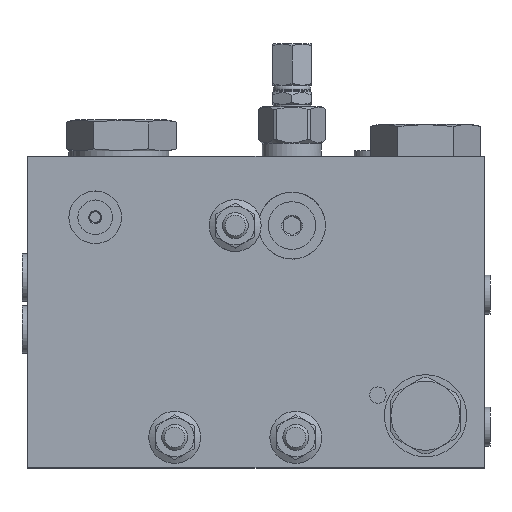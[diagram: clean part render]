
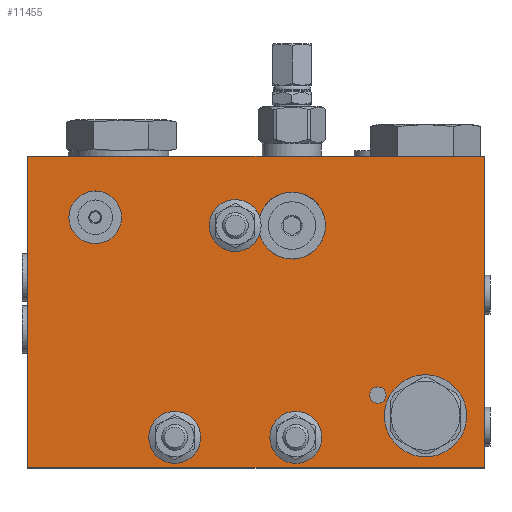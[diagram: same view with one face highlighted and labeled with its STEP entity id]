
A CAD part, top view. The second image highlights one B-rep face of the part: STEP entity #11455.
In plain terms, the highlighted planar face has unit normal (0, 0, 1).
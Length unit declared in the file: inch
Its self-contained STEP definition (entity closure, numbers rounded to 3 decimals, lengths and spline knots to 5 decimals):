
#62=LINE('',#17969,#706);
#63=LINE('',#17971,#707);
#64=LINE('',#17973,#708);
#65=LINE('',#17974,#709);
#706=VECTOR('',#14076,6.6);
#707=VECTOR('',#14077,4.5);
#708=VECTOR('',#14078,6.6);
#709=VECTOR('',#14079,4.5);
#2325=FACE_BOUND('',#3732,.T.);
#2326=FACE_BOUND('',#3733,.T.);
#2327=FACE_BOUND('',#3734,.T.);
#2328=FACE_BOUND('',#3735,.T.);
#2329=FACE_BOUND('',#3736,.T.);
#2330=FACE_BOUND('',#3737,.T.);
#2740=FACE_OUTER_BOUND('',#3731,.T.);
#3731=EDGE_LOOP('',(#7940,#7941,#7942,#7943));
#3732=EDGE_LOOP('',(#7944));
#3733=EDGE_LOOP('',(#7945));
#3734=EDGE_LOOP('',(#7946,#7947));
#3735=EDGE_LOOP('',(#7948));
#3736=EDGE_LOOP('',(#7949));
#3737=EDGE_LOOP('',(#7950));
#4617=CIRCLE('',#12450,0.375);
#4618=CIRCLE('',#12464,0.375);
#4619=CIRCLE('',#12465,0.594);
#4620=CIRCLE('',#12466,0.375);
#4621=CIRCLE('',#12467,0.4845);
#4622=CIRCLE('',#12468,0.118);
#4623=CIRCLE('',#12469,0.38);
#5061=VERTEX_POINT('',#17904);
#5068=VERTEX_POINT('',#17967);
#5069=VERTEX_POINT('',#17968);
#5070=VERTEX_POINT('',#17970);
#5071=VERTEX_POINT('',#17972);
#5072=VERTEX_POINT('',#17975);
#5073=VERTEX_POINT('',#17977);
#5074=VERTEX_POINT('',#17979);
#5075=VERTEX_POINT('',#17980);
#5076=VERTEX_POINT('',#17983);
#5077=VERTEX_POINT('',#17985);
#6155=EDGE_CURVE('',#5061,#5061,#4617,.T.);
#6174=EDGE_CURVE('',#5068,#5069,#62,.T.);
#6175=EDGE_CURVE('',#5070,#5068,#63,.T.);
#6176=EDGE_CURVE('',#5071,#5070,#64,.T.);
#6177=EDGE_CURVE('',#5069,#5071,#65,.T.);
#6178=EDGE_CURVE('',#5072,#5072,#4618,.T.);
#6179=EDGE_CURVE('',#5073,#5073,#4619,.T.);
#6180=EDGE_CURVE('',#5074,#5075,#4620,.T.);
#6181=EDGE_CURVE('',#5075,#5074,#4621,.T.);
#6182=EDGE_CURVE('',#5076,#5076,#4622,.T.);
#6183=EDGE_CURVE('',#5077,#5077,#4623,.T.);
#7940=ORIENTED_EDGE('',*,*,#6174,.F.);
#7941=ORIENTED_EDGE('',*,*,#6175,.F.);
#7942=ORIENTED_EDGE('',*,*,#6176,.F.);
#7943=ORIENTED_EDGE('',*,*,#6177,.F.);
#7944=ORIENTED_EDGE('',*,*,#6178,.T.);
#7945=ORIENTED_EDGE('',*,*,#6179,.T.);
#7946=ORIENTED_EDGE('',*,*,#6180,.T.);
#7947=ORIENTED_EDGE('',*,*,#6181,.T.);
#7948=ORIENTED_EDGE('',*,*,#6182,.T.);
#7949=ORIENTED_EDGE('',*,*,#6183,.T.);
#7950=ORIENTED_EDGE('',*,*,#6155,.T.);
#10399=PLANE('',#12463);
#11455=ADVANCED_FACE('',(#2740,#2325,#2326,#2327,#2328,#2329,#2330),#10399,
 .T.);
#12450=AXIS2_PLACEMENT_3D('',#17905,#14042,#14043);
#12463=AXIS2_PLACEMENT_3D('',#17966,#14074,#14075);
#12464=AXIS2_PLACEMENT_3D('',#17976,#14080,#14081);
#12465=AXIS2_PLACEMENT_3D('',#17978,#14082,#14083);
#12466=AXIS2_PLACEMENT_3D('',#17981,#14084,#14085);
#12467=AXIS2_PLACEMENT_3D('',#17982,#14086,#14087);
#12468=AXIS2_PLACEMENT_3D('',#17984,#14088,#14089);
#12469=AXIS2_PLACEMENT_3D('',#17986,#14090,#14091);
#14042=DIRECTION('center_axis',(0.,0.,-1.));
#14043=DIRECTION('ref_axis',(0.,1.,0.));
#14074=DIRECTION('center_axis',(0.,0.,1.));
#14075=DIRECTION('ref_axis',(1.,0.,0.));
#14076=DIRECTION('',(1.,0.,0.));
#14077=DIRECTION('',(0.,1.,0.));
#14078=DIRECTION('',(-1.,0.,0.));
#14079=DIRECTION('',(0.,-1.,0.));
#14080=DIRECTION('center_axis',(0.,0.,-1.));
#14081=DIRECTION('ref_axis',(0.,1.,0.));
#14082=DIRECTION('center_axis',(0.,0.,-1.));
#14083=DIRECTION('ref_axis',(0.,1.,0.));
#14084=DIRECTION('center_axis',(0.,0.,-1.));
#14085=DIRECTION('ref_axis',(0.,1.,0.));
#14086=DIRECTION('center_axis',(0.,0.,-1.));
#14087=DIRECTION('ref_axis',(0.,1.,0.));
#14088=DIRECTION('center_axis',(0.,0.,-1.));
#14089=DIRECTION('ref_axis',(0.,1.,0.));
#14090=DIRECTION('center_axis',(0.,0.,-1.));
#14091=DIRECTION('ref_axis',(1.,0.,0.));
#17904=CARTESIAN_POINT('',(3.875,-3.687,0.));
#17905=CARTESIAN_POINT('Origin',(3.875,-4.062,0.));
#17966=CARTESIAN_POINT('Origin',(3.3,-2.25,0.));
#17967=CARTESIAN_POINT('',(0.,0.,0.));
#17968=CARTESIAN_POINT('',(6.6,0.,0.));
#17969=CARTESIAN_POINT('',(0.,0.,0.));
#17970=CARTESIAN_POINT('',(0.,-4.5,0.));
#17971=CARTESIAN_POINT('',(0.,-4.5,0.));
#17972=CARTESIAN_POINT('',(6.6,-4.5,0.));
#17973=CARTESIAN_POINT('',(6.6,-4.5,0.));
#17974=CARTESIAN_POINT('',(6.6,0.,0.));
#17975=CARTESIAN_POINT('',(2.125,-3.687,0.));
#17976=CARTESIAN_POINT('Origin',(2.125,-4.062,0.));
#17977=CARTESIAN_POINT('',(5.75,-4.344,0.));
#17978=CARTESIAN_POINT('Origin',(5.75,-3.75,0.));
#17979=CARTESIAN_POINT('',(3.35261,-1.12763,0.));
#17980=CARTESIAN_POINT('',(3.35261,-0.87237,0.));
#17981=CARTESIAN_POINT('Origin',(3.,-1.,0.));
#17982=CARTESIAN_POINT('Origin',(3.82,-1.,0.));
#17983=CARTESIAN_POINT('',(5.062,-3.568,0.));
#17984=CARTESIAN_POINT('Origin',(5.062,-3.45,0.));
#17985=CARTESIAN_POINT('',(1.355,-0.88,0.));
#17986=CARTESIAN_POINT('Origin',(0.975,-0.88,0.));
